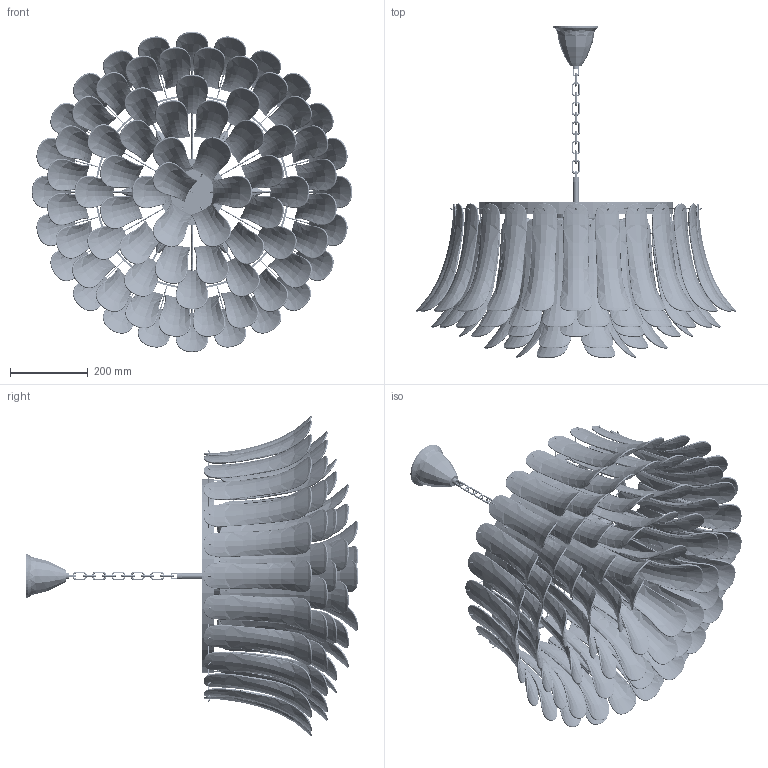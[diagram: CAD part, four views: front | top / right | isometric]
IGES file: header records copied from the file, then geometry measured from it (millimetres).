
Start section: SolidWorks IGES file using analytic representation for surfaces
Global section: file name: F:\燠隴矨\3D\2025-4\渾奻換3D\Petals White Murano Chandelier.IGS; native system: SolidWorks 2022; preprocessor: SolidWorks 2022; author: MyPC; date: 250430.115159; units: millimetre
Bounding box: 825.45 x 855.39 x 825.45 mm (x, y, z)
Surface area: 4117044.1 mm2 (no closed solid volume)
Topology: 0 solids, 0 shells, 1747 faces, 31473 edges, 31467 vertices
Faces by surface type: bspline 1267, revolution 480
